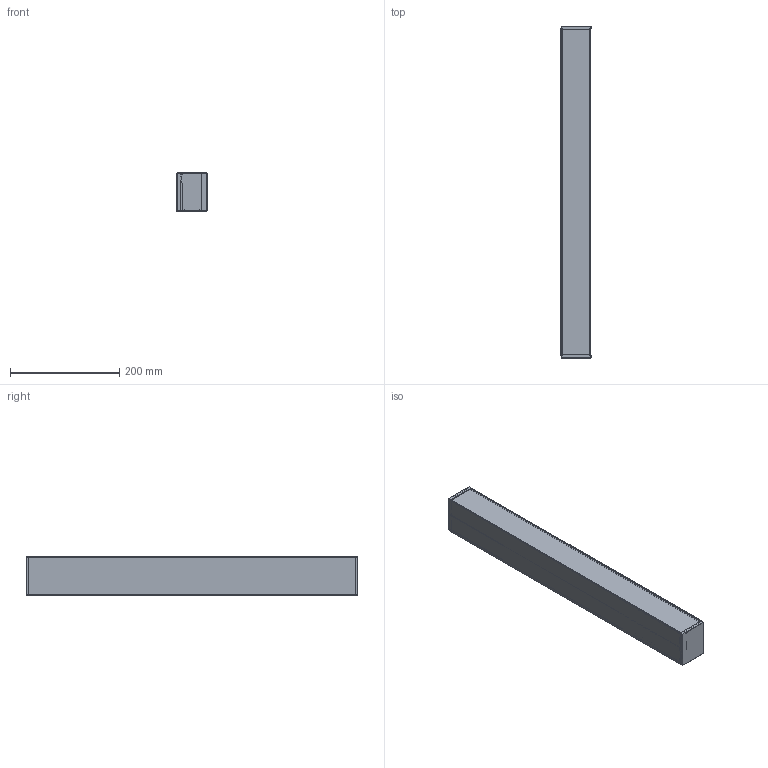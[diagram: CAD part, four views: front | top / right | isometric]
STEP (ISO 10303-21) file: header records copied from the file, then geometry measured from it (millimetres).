
FILE_DESCRIPTION((''),'2;1');
FILE_NAME('ASM0006_ASM','2025-12-10T23:38:41',('86186'),(''),'CREO PARAMETRIC BY PTC INC, 2019010','CREO PARAMETRIC BY PTC INC, 2019010','');
FILE_SCHEMA(('CONFIG_CONTROL_DESIGN'));
Length unit declared in the file: millimetre
Products named in the file (9): 00; 557011_19000; 557000; PRT0013; PRT0011; PRT0014; PRT0012; PRT0016; ASM0006_ASM
Assembly tree (11 placements, depth 2):
  ASM0006_ASM
    00
    557011_19000  x2
    557000  x2
    PRT0013  x2
    PRT0011
    PRT0014
    PRT0012
    PRT0016
Bounding box: 55.1 x 608.85 x 70 mm (x, y, z)
Volume: 365171.9 mm3; surface area: 593288.4 mm2
Topology: 12 solids, 16 shells, 1565 faces, 4145 edges, 2742 vertices
Faces by surface type: plane 1131, cylinder 398, cone 24, sphere 8, extrusion 4
Entity records: 40417 total; most frequent: CARTESIAN_POINT 7763, ORIENTED_EDGE 6804, DIRECTION 6446, EDGE_CURVE 3402, VECTOR 2732, LINE 2730, VERTEX_POINT 2259, AXIS2_PLACEMENT_3D 1857
